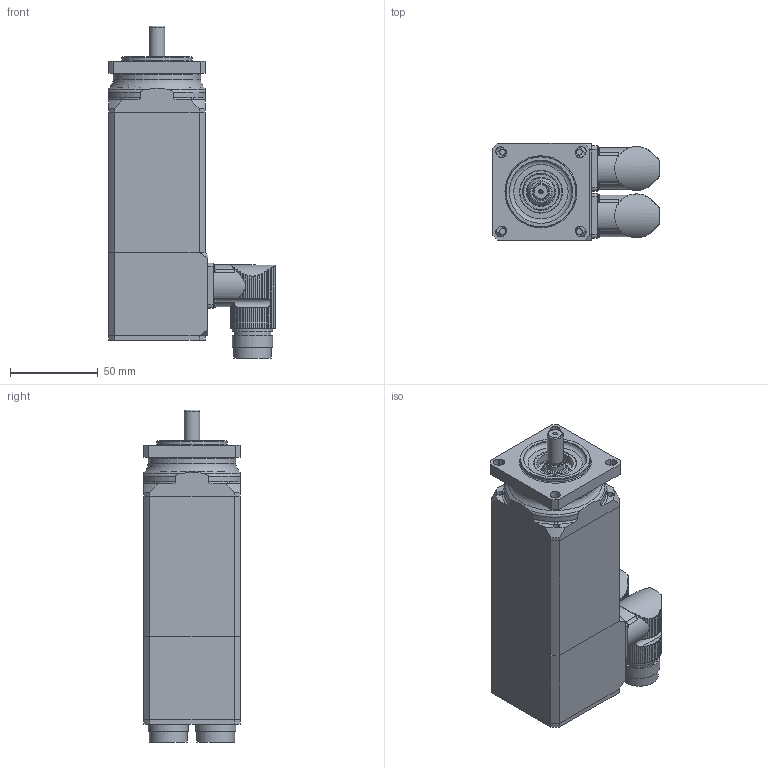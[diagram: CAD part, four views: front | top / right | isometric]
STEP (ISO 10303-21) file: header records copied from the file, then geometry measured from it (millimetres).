
FILE_DESCRIPTION(/* description */ (''),/* implementation_level */ '2;1');
FILE_NAME(/* name */ 'MR 7414-Ux-Nxxx-G01-A0D-M0',/* time_stamp */ '2007-07-13T09:50:00+01:00',/* author */ (''),/* organization */ ('ESR Pollmeier GmbH'),/* preprocessor_version */ 'ST-DEVELOPER v8',/* originating_system */ 'UNIGRAPHICS SOLUTIONS - UNIGRAPHICS 18.0',/* authorisation */ '');
FILE_SCHEMA (('AUTOMOTIVE_DESIGN { 1 2 10303 214 0 1 1 1 }'));
Length unit declared in the file: millimetre
Products named in the file (11): Gehaeuse_SY1_80_0; Rotor_SY1_0; 064223_0; 111001_0; 111002_2; iso2009-m3x8_A; iso1580-m2.5x6_A; 014257_0; 014250_0; DIN3760_org_A10x24x7_0; MR7414-Ux-Nxxx-G01-A0D-M0_0
Assembly tree (20 placements, depth 2):
  MR7414-Ux-Nxxx-G01-A0D-M0_0
    DIN3760_org_A10x24x7_0
    014250_0
    014257_0
    iso1580-m2.5x6_A  x8
    iso2009-m3x8_A  x4
    111002_2
    111001_0
    064223_0
    Rotor_SY1_0
    Gehaeuse_SY1_80_0
Bounding box: 94.99 x 55 x 189.15 mm (x, y, z)
Volume: 221931.1 mm3; surface area: 117485.4 mm2
Topology: 20 solids, 20 shells, 836 faces, 2250 edges, 1474 vertices
Faces by surface type: cylinder 485, plane 212, cone 75, torus 40, sphere 20, bspline 4
Full cylindrical faces by diameter (mm): 1 x16, 1.5 x1, 1.948 x8, 2 x4, 2.135 x8, 2.459 x7, 2.5 x8, 2.7 x8, 3 x4, 3.3 x3, 3.432 x4, 3.5 x4, 4.5 x4, 6 x4, 6.5 x3, 8 x4, 8.52 x1, 9 x1, 10 x2, 10.3 x1, 15 x2, 18 x4, 20 x5, 21 x3, 21.5 x2, 22.5 x1, 23 x4, 24 x2, 26 x2, 36 x1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
Entity records: 23029 total; most frequent: CARTESIAN_POINT 5779, DIRECTION 3506, ORIENTED_EDGE 3320, EDGE_CURVE 1660, AXIS2_PLACEMENT_3D 1488, VERTEX_POINT 1199, EDGE_LOOP 1022, CIRCLE 755
